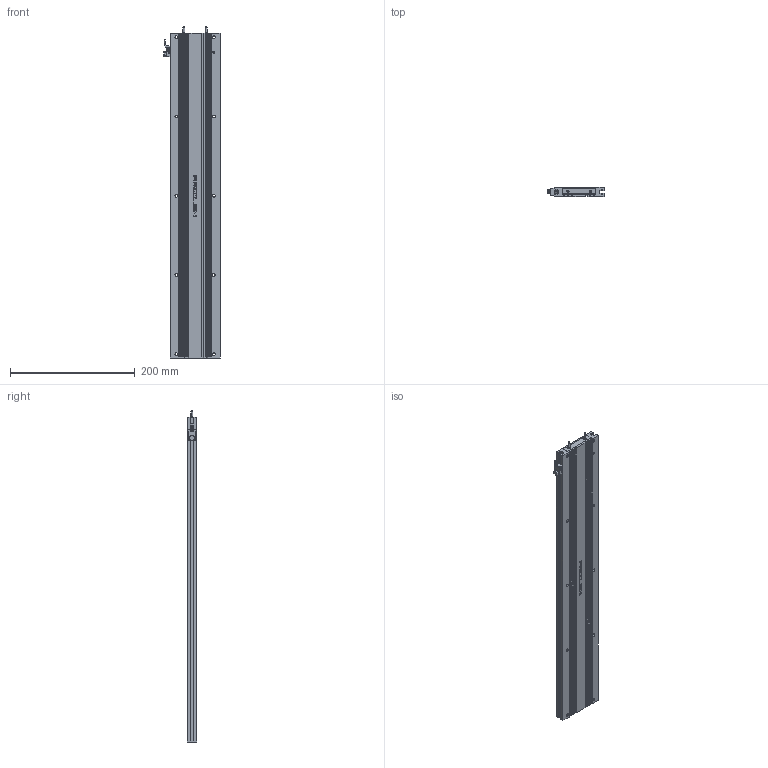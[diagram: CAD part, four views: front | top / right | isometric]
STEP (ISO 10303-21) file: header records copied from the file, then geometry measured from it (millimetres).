
FILE_DESCRIPTION (( 'STEP AP203' ), '1' );
FILE_NAME ('13M0358_GW..Q520x80-Step.STEP', '2012-11-02T11:42:26', ( 'Marino Pierri' ), ( '' ), 'SwSTEP 2.0', 'SolidWorks 2012', '' );
FILE_SCHEMA (( 'CONFIG_CONTROL_DESIGN' ));
Length unit declared in the file: millimetre
Products named in the file (8): 13M0358_GW..Q520x80-Step; Gewindefurchschraube SK DIN 7500- M4x12; Temperaturschalter_180Grad; Leitung-FEP-AWG14-19-ws; Leitung-FEP-AWG14-19-gr; Abschlussdeckel Aluprofile_Aludeckel f〉 70x15 mit Bohrung; Abschlussdeckel Aluprofile_Aludeckel f〉 70x15 ohne Bohrung; Aluprofil GW...x80_GW520x80
Assembly tree (7 placements, depth 2):
  13M0358_GW..Q520x80-Step
    Aluprofil GW...x80_GW520x80
    Abschlussdeckel Aluprofile_Aludeckel f〉 70x15 ohne Bohrung
    Abschlussdeckel Aluprofile_Aludeckel f〉 70x15 mit Bohrung
    Leitung-FEP-AWG14-19-gr
    Leitung-FEP-AWG14-19-ws
    Temperaturschalter_180Grad
    Gewindefurchschraube SK DIN 7500- M4x12
Bounding box: 90 x 15 x 532 mm (x, y, z)
Volume: 288640.8 mm3; surface area: 196598.8 mm2
Topology: 9 solids, 9 shells, 562 faces, 1498 edges, 994 vertices
Faces by surface type: plane 323, bspline 171, cylinder 58, torus 8, cone 2
Entity records: 24128 total; most frequent: CARTESIAN_POINT 10289, ORIENTED_EDGE 2996, DIRECTION 2070, EDGE_CURVE 1498, VECTOR 1024, LINE 1024, VERTEX_POINT 994, EDGE_LOOP 636
